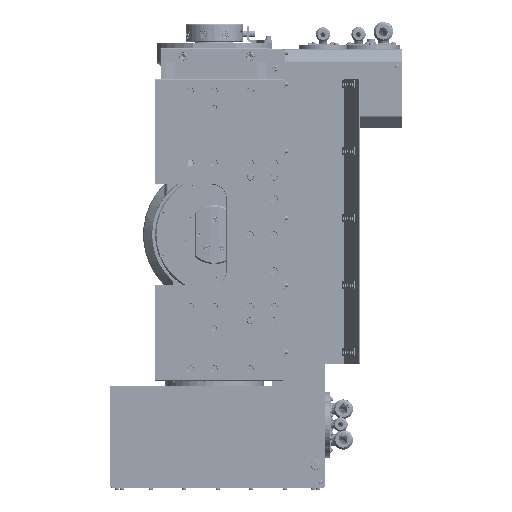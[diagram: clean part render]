
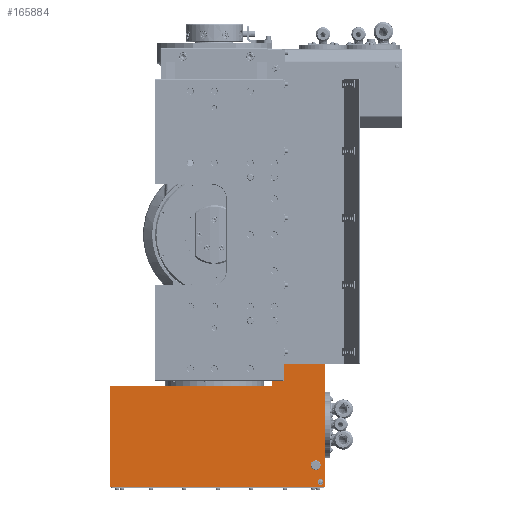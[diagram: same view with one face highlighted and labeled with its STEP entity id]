
A CAD part, front view. The second image highlights one B-rep face of the part: STEP entity #165884.
In plain terms, the highlighted planar face has unit normal (0, -1, 0).
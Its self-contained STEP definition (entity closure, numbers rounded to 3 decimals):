
#33 = ORIENTED_EDGE ( 'NONE', *, *, #343880, .T. ) ;
#1382 = CARTESIAN_POINT ( 'NONE',  ( -1., -240., 114. ) ) ;
#5113 = VERTEX_POINT ( 'NONE', #305825 ) ;
#7708 = AXIS2_PLACEMENT_3D ( 'NONE', #120397, #310322, #151412 ) ;
#7797 = ORIENTED_EDGE ( 'NONE', *, *, #343135, .F. ) ;
#17111 = EDGE_LOOP ( 'NONE', ( #296636 ) ) ;
#19595 = CARTESIAN_POINT ( 'NONE',  ( 207.7, -240., -218. ) ) ;
#28530 = AXIS2_PLACEMENT_3D ( 'NONE', #19595, #58815, #339506 ) ;
#31762 = CARTESIAN_POINT ( 'NONE',  ( 210., -240., 232. ) ) ;
#40751 = VERTEX_POINT ( 'NONE', #31762 ) ;
#42936 = CIRCLE ( 'NONE', #115379, 2. ) ;
#44545 = FACE_OUTER_BOUND ( 'NONE', #96549, .T. ) ;
#49779 = CARTESIAN_POINT ( 'NONE',  ( 200., -240., 222. ) ) ;
#58815 = DIRECTION ( 'NONE',  ( 0., -1., 0. ) ) ;
#73168 = CARTESIAN_POINT ( 'NONE',  ( -63., -240., 232. ) ) ;
#73193 = EDGE_CURVE ( 'NONE', #210765, #210765, #363658, .T. ) ;
#79561 = FACE_BOUND ( 'NONE', #17111, .T. ) ;
#81469 = CARTESIAN_POINT ( 'NONE',  ( 210., -240., -218. ) ) ;
#84158 = VECTOR ( 'NONE', #137029, 1000. ) ;
#85776 = VERTEX_POINT ( 'NONE', #270315 ) ;
#94395 = CARTESIAN_POINT ( 'NONE',  ( -63., -240., 122. ) ) ;
#96549 = EDGE_LOOP ( 'NONE', ( #117218, #247605, #100235, #33, #123536, #207481, #397999, #406605, #300714 ) ) ;
#97466 = LINE ( 'NONE', #221397, #270410 ) ;
#100235 = ORIENTED_EDGE ( 'NONE', *, *, #157076, .F. ) ;
#100356 = CARTESIAN_POINT ( 'NONE',  ( -61., -240., 122. ) ) ;
#104148 = EDGE_CURVE ( 'NONE', #260226, #387175, #302194, .T. ) ;
#104342 = CARTESIAN_POINT ( 'NONE',  ( 0., -240., -218. ) ) ;
#115379 = AXIS2_PLACEMENT_3D ( 'NONE', #100356, #135343, #230320 ) ;
#117218 = ORIENTED_EDGE ( 'NONE', *, *, #212951, .T. ) ;
#119811 = CARTESIAN_POINT ( 'NONE',  ( 165., -240., 205.5 ) ) ;
#120397 = CARTESIAN_POINT ( 'NONE',  ( 165., -240., 212. ) ) ;
#122855 = VERTEX_POINT ( 'NONE', #245335 ) ;
#123536 = ORIENTED_EDGE ( 'NONE', *, *, #335200, .T. ) ;
#133018 = CARTESIAN_POINT ( 'NONE',  ( 0., -240., 114. ) ) ;
#135343 = DIRECTION ( 'NONE',  ( 0., -1., 0. ) ) ;
#137029 = DIRECTION ( 'NONE',  ( -1., 0., 0. ) ) ;
#145277 = CARTESIAN_POINT ( 'NONE',  ( 207.7, -240., -218. ) ) ;
#151412 = DIRECTION ( 'NONE',  ( 0., 0., -1. ) ) ;
#156078 = CIRCLE ( 'NONE', #169371, 2.1 ) ;
#157076 = EDGE_CURVE ( 'NONE', #40751, #260226, #364426, .T. ) ;
#161297 = LINE ( 'NONE', #256226, #175511 ) ;
#162730 = EDGE_CURVE ( 'NONE', #5113, #305443, #97466, .T. ) ;
#165667 = EDGE_CURVE ( 'NONE', #300336, #122855, #329861, .T. ) ;
#165884 = ADVANCED_FACE ( 'NONE', ( #44545, #296366, #79561 ), #267544, .T. ) ;
#167139 = VERTEX_POINT ( 'NONE', #94395 ) ;
#169371 = AXIS2_PLACEMENT_3D ( 'NONE', #49779, #307593, #367371 ) ;
#170094 = CARTESIAN_POINT ( 'NONE',  ( 569.721, -240., 232. ) ) ;
#175116 = DIRECTION ( 'NONE',  ( 1., 0., 0. ) ) ;
#175511 = VECTOR ( 'NONE', #324247, 1000. ) ;
#205192 = LINE ( 'NONE', #133018, #285923 ) ;
#207481 = ORIENTED_EDGE ( 'NONE', *, *, #289293, .T. ) ;
#210765 = VERTEX_POINT ( 'NONE', #119811 ) ;
#212951 = EDGE_CURVE ( 'NONE', #122855, #387175, #205192, .T. ) ;
#215298 = DIRECTION ( 'NONE',  ( 1., 0., 0. ) ) ;
#221397 = CARTESIAN_POINT ( 'NONE',  ( -63., -240., 120. ) ) ;
#223987 = LINE ( 'NONE', #73168, #249539 ) ;
#230320 = DIRECTION ( 'NONE',  ( 0., 0., -1. ) ) ;
#234940 = CARTESIAN_POINT ( 'NONE',  ( -63., -240., 114. ) ) ;
#235053 = CARTESIAN_POINT ( 'NONE',  ( -1., -240., 120. ) ) ;
#245335 = CARTESIAN_POINT ( 'NONE',  ( 0., -240., 114. ) ) ;
#247605 = ORIENTED_EDGE ( 'NONE', *, *, #104148, .F. ) ;
#249539 = VECTOR ( 'NONE', #357931, 1000. ) ;
#256226 = CARTESIAN_POINT ( 'NONE',  ( -1., -240., -218. ) ) ;
#258941 = LINE ( 'NONE', #170094, #84158 ) ;
#260226 = VERTEX_POINT ( 'NONE', #81469 ) ;
#267544 = PLANE ( 'NONE',  #28530 ) ;
#270315 = CARTESIAN_POINT ( 'NONE',  ( -63., -240., 232. ) ) ;
#270410 = VECTOR ( 'NONE', #215298, 1000. ) ;
#271287 = VECTOR ( 'NONE', #333576, 1000. ) ;
#271341 = DIRECTION ( 'NONE',  ( -1., 0., 0. ) ) ;
#272341 = VECTOR ( 'NONE', #271341, 1000. ) ;
#285923 = VECTOR ( 'NONE', #291990, 1000. ) ;
#289293 = EDGE_CURVE ( 'NONE', #167139, #5113, #42936, .T. ) ;
#291990 = DIRECTION ( 'NONE',  ( 0., 0., -1. ) ) ;
#296366 = FACE_BOUND ( 'NONE', #392337, .T. ) ;
#296636 = ORIENTED_EDGE ( 'NONE', *, *, #73193, .F. ) ;
#300336 = VERTEX_POINT ( 'NONE', #1382 ) ;
#300560 = CARTESIAN_POINT ( 'NONE',  ( 210., -240., 232. ) ) ;
#300714 = ORIENTED_EDGE ( 'NONE', *, *, #165667, .T. ) ;
#302194 = LINE ( 'NONE', #145277, #272341 ) ;
#305443 = VERTEX_POINT ( 'NONE', #235053 ) ;
#305825 = CARTESIAN_POINT ( 'NONE',  ( -61., -240., 120. ) ) ;
#307593 = DIRECTION ( 'NONE',  ( 0., -1., 0. ) ) ;
#310322 = DIRECTION ( 'NONE',  ( 0., -1., 0. ) ) ;
#312043 = VECTOR ( 'NONE', #175116, 1000. ) ;
#324247 = DIRECTION ( 'NONE',  ( 0., 0., -1. ) ) ;
#329274 = EDGE_CURVE ( 'NONE', #305443, #300336, #161297, .T. ) ;
#329861 = LINE ( 'NONE', #234940, #312043 ) ;
#333576 = DIRECTION ( 'NONE',  ( 0., 0., -1. ) ) ;
#335200 = EDGE_CURVE ( 'NONE', #85776, #167139, #223987, .T. ) ;
#339506 = DIRECTION ( 'NONE',  ( 0., 0., -1. ) ) ;
#343135 = EDGE_CURVE ( 'NONE', #403480, #403480, #156078, .T. ) ;
#343880 = EDGE_CURVE ( 'NONE', #40751, #85776, #258941, .T. ) ;
#357931 = DIRECTION ( 'NONE',  ( 0., 0., -1. ) ) ;
#363658 = CIRCLE ( 'NONE', #7708, 6.5 ) ;
#364426 = LINE ( 'NONE', #300560, #271287 ) ;
#367371 = DIRECTION ( 'NONE',  ( 0., 0., -1. ) ) ;
#372535 = CARTESIAN_POINT ( 'NONE',  ( 200., -240., 219.9 ) ) ;
#387175 = VERTEX_POINT ( 'NONE', #104342 ) ;
#392337 = EDGE_LOOP ( 'NONE', ( #7797 ) ) ;
#397999 = ORIENTED_EDGE ( 'NONE', *, *, #162730, .T. ) ;
#403480 = VERTEX_POINT ( 'NONE', #372535 ) ;
#406605 = ORIENTED_EDGE ( 'NONE', *, *, #329274, .T. ) ;
